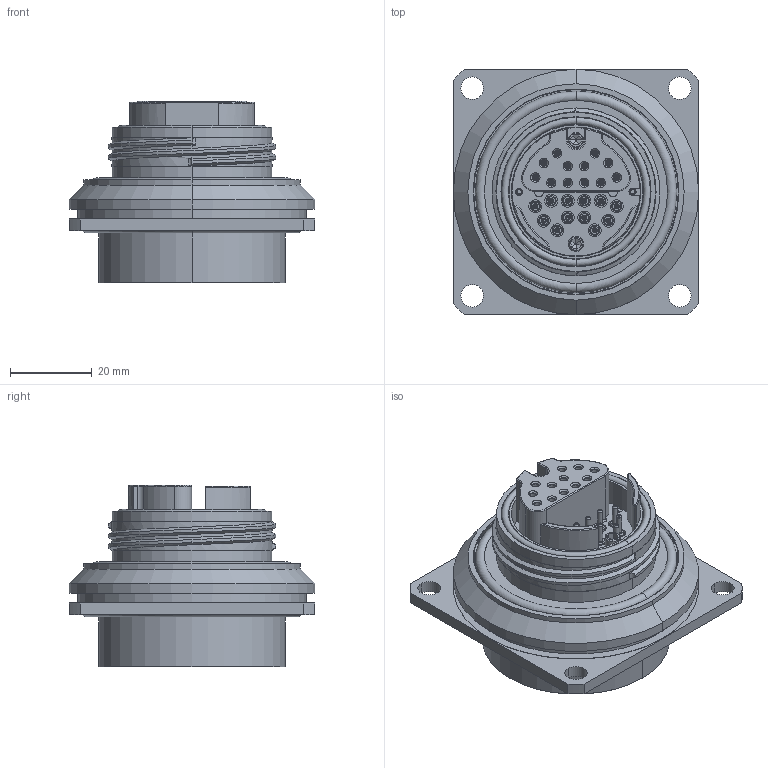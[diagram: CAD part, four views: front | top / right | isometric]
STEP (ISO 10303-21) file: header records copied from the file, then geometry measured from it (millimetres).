
FILE_DESCRIPTION (( 'STEP AP214' ), '1' );
FILE_NAME ('QFOCA3-RFFX-24X-X-S0X.STEP', '2025-08-05T20:38:04', ( '' ), ( '' ), 'SwSTEP 2.0', 'SolidWorks 2024', '' );
FILE_SCHEMA (( 'AUTOMOTIVE_DESIGN' ));
Length unit declared in the file: inch
Products named in the file (1): QFOCA3-RFFX-24X-X-S0X
Bounding box: 60.2 x 60.2 x 44.45 mm (x, y, z)
Volume: 55590.2 mm3; surface area: 28433 mm2
Topology: 4 solids, 6 shells, 1246 faces, 2755 edges, 1684 vertices
Faces by surface type: cylinder 503, plane 273, torus 238, cone 216, bspline 16
Entity records: 38935 total; most frequent: CARTESIAN_POINT 10535, DIRECTION 6604, ORIENTED_EDGE 5510, AXIS2_PLACEMENT_3D 2843, EDGE_CURVE 2755, VERTEX_POINT 1684, CIRCLE 1612, EDGE_LOOP 1427
